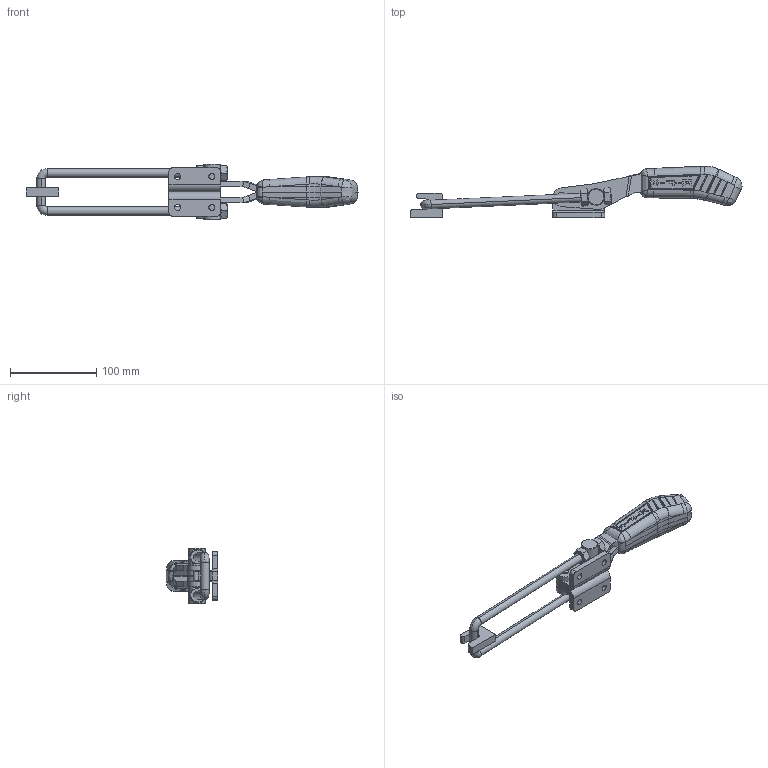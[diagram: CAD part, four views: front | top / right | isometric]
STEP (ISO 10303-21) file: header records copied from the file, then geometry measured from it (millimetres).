
FILE_DESCRIPTION (( 'STEP AP203' ), '1' );
FILE_NAME ('KF-943 SU.STEP', '2020-09-03T14:10:45', ( '' ), ( '' ), 'SwSTEP 2.0', 'SolidWorks 2020', '' );
FILE_SCHEMA (( 'CONFIG_CONTROL_DESIGN' ));
Length unit declared in the file: millimetre
Products named in the file (11): 07.60003; 01.10216_Esquerda; 03.20108; 02.12146_Esquerda; 02.12146_Direita; 11.50003; 16.20136; 06.50049; 15.10129; KF-943 SU; 01.10216_Direita
Assembly tree (13 placements, depth 2):
  KF-943 SU
    02.12146_Direita
    02.12146_Esquerda
    01.10216_Direita
    01.10216_Esquerda
    16.20136
    03.20108
    15.10129
    11.50003  x4
    07.60003
    06.50049
Bounding box: 386.04 x 60.16 x 64.5 mm (x, y, z)
Volume: 248113.2 mm3; surface area: 83917.2 mm2
Topology: 13 solids, 13 shells, 646 faces, 1646 edges, 1030 vertices
Faces by surface type: plane 217, cylinder 181, bspline 151, sphere 48, cone 42, torus 7
Entity records: 22926 total; most frequent: CARTESIAN_POINT 8932, ORIENTED_EDGE 2984, DIRECTION 2193, EDGE_CURVE 1492, VERTEX_POINT 938, AXIS2_PLACEMENT_3D 853, EDGE_LOOP 644, ADVANCED_FACE 592
